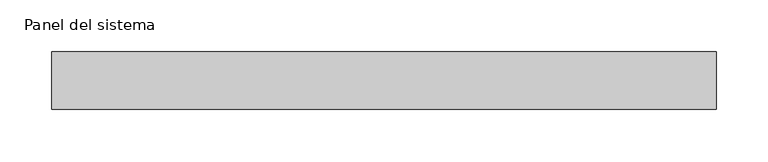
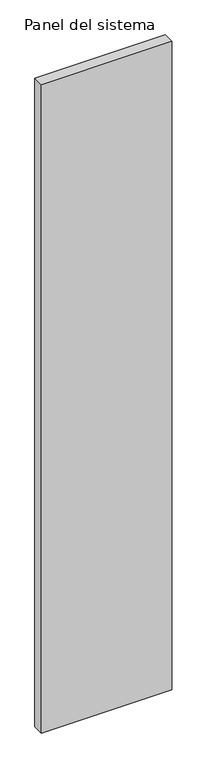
"""IFC4 building model written with IfcOpenShell, lengths in millimetres: plate geometry, Panel del sistema : HIANSA - CHAPA PERFILADA CUBIERTA - MT56 DECK."""

from ifc_helpers import new_model, si_unit, origin, origin_with_axes, place, context, project, spatial, polyline, outline, extrude, source, transform, mapped, element, save


def panel_del_sistema_70dac859(model_context):
    return source(origin(), model_context, "Body", "SweptSolid", [
        extrude(outline(polyline([(321.9999998, 0.0), (-321.9999998, 0.0), (-321.9999998, 56.0), (321.9999998, 56.0), (321.9999998, 0.0)])), origin_with_axes(), (0.0, 0.0, 1.0), 3390.8509027),
    ])


if __name__ == "__main__":
    model = new_model("IFC4")
    model_context = context("Model", 3, world=origin())
    ifc_project = project(units=[si_unit("LENGTHUNIT", "METRE", prefix="MILLI")], contexts=[model_context])
    site = spatial("IfcSite", under=ifc_project)
    building = spatial("IfcBuilding", under=site)
    placement = place(None, origin())
    panel_del_sistema_shape = panel_del_sistema_70dac859(model_context)
    element("IfcPlate", 1, ObjectType="Panel del sistema : HIANSA - CHAPA PERFILADA CUBIERTA - MT56 DECK", at=placement, inside=building, context=model_context, shape_type="MappedRepresentation", body=[
        mapped(panel_del_sistema_shape, transform((0.0, 0.0, 0.0), x_axis=(1.0, 0.0, 0.0), y_axis=(0.0, 1.0, 0.0), z_axis=(0.0, 0.0, 1.0))),
    ])
    save(model, "model.ifc")
